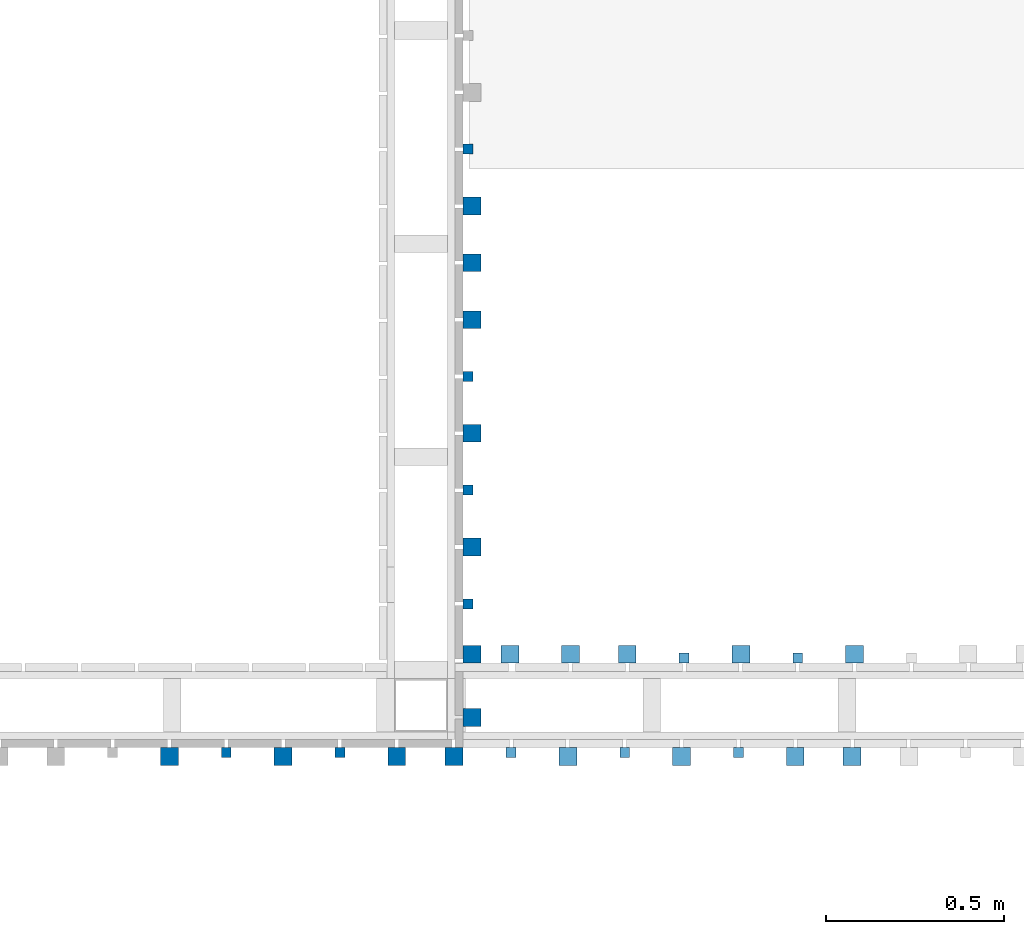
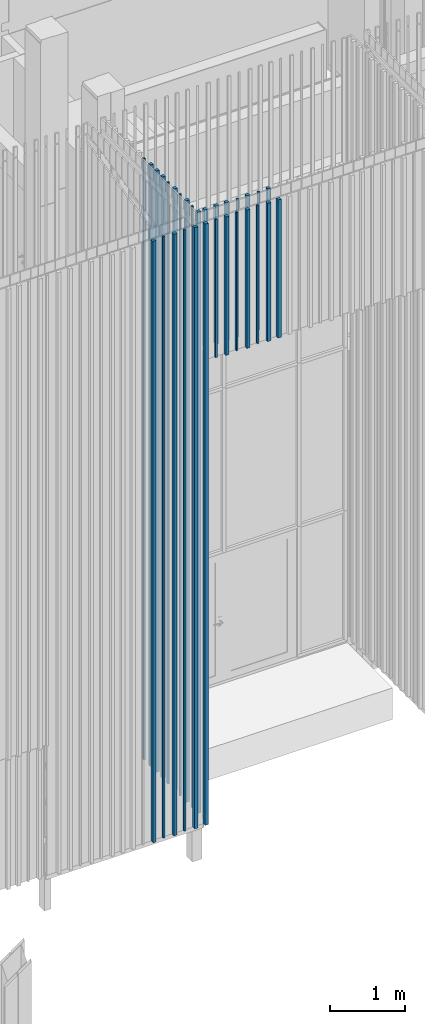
# One storey, part 11 of 390: 31 walls.
"""IFC2X3 building model written with IfcOpenShell, lengths in millimetres."""

from ifc_helpers import new_model, entity, si_unit, converted_unit, derived_unit, money_unit, direction, frame, origin_with_axes, origin_2d_with_axis, place, context, subcontext, project, spatial, rectangle, extrude, material, type_object, element, save


model = new_model("IFC2X3")

# Units and contexts
model_context = context("Model", 3, precision=1e-05, world=origin_with_axes(), true_north=direction((0.0, 1.0)))
body_context = subcontext(model_context, "Body", "Model", "MODEL_VIEW")
ifc_project = project(units=[si_unit("LENGTHUNIT", "METRE", prefix="MILLI"), si_unit("AREAUNIT", "SQUARE_METRE"), si_unit("VOLUMEUNIT", "CUBIC_METRE"), converted_unit("PLANEANGLEUNIT", "DEGREE", entity("IfcPlaneAngleMeasure", 0.0174532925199), si_unit("PLANEANGLEUNIT", "RADIAN"), dimensions=[0, 0, 0, 0, 0, 0, 0]), si_unit("SOLIDANGLEUNIT", "STERADIAN"), money_unit("EUR"), converted_unit("TIMEUNIT", "Year", entity("IfcTimeMeasure", 31556926.0), si_unit("TIMEUNIT", "SECOND"), dimensions=[0, 0, 1, 0, 0, 0, 0]), si_unit("MASSUNIT", "GRAM", prefix="KILO"), si_unit("THERMODYNAMICTEMPERATUREUNIT", "DEGREE_CELSIUS"), si_unit("LUMINOUSINTENSITYUNIT", "LUMEN"), si_unit("ENERGYUNIT", "JOULE", prefix="MEGA"), derived_unit("THERMALCONDUCTANCEUNIT", [(si_unit("POWERUNIT", "WATT"), 1), (si_unit("LENGTHUNIT", "METRE"), -1), (si_unit("THERMODYNAMICTEMPERATUREUNIT", "KELVIN"), -1)]), derived_unit("SPECIFICHEATCAPACITYUNIT", [(si_unit("ENERGYUNIT", "JOULE"), 1), (si_unit("MASSUNIT", "GRAM", prefix="KILO"), -1), (si_unit("THERMODYNAMICTEMPERATUREUNIT", "KELVIN"), -1)]), derived_unit("MASSDENSITYUNIT", [(si_unit("MASSUNIT", "GRAM", prefix="KILO"), 1), (si_unit("VOLUMEUNIT", "CUBIC_METRE"), -1)])], contexts=[model_context])

# Site, building, storey
site_placement = place(None, origin_with_axes())
site = spatial("IfcSite", under=ifc_project, at=site_placement, Name="Site", CompositionType="ELEMENT")
building_placement = place(site_placement, origin_with_axes())
building = spatial("IfcBuilding", under=site, at=building_placement, Name="Building", CompositionType="ELEMENT")
storey_placement = place(building_placement, origin_with_axes())
storey = spatial("IfcBuildingStorey", under=building, at=storey_placement, Name="1 korrus", CompositionType="ELEMENT", Elevation=0.0)

# Walls
ifc_material = material(Name="Site specified")
wall_type = type_object("IfcWallType", Name="Puitfassaadi ribistik", PredefinedType="NOTDEFINED")
for number, where, z_axis, x_axis, name in (
    (1, (128736.999994, 42466.0000037, 100.000000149), (0.0, 0.0, 1.0), (-1.0, 0.0, 0.0), "Site specified"),
    (2, (128416.999994, 42465.9999962, 100.000000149), (0.0, 0.0, 1.0), (-1.0, 0.0, 0.0), "Site specified"),
):
    element("IfcWall", number, at=place(storey_placement, frame(where, z_axis=z_axis, x_axis=x_axis)), inside=storey, type_object=wall_type, material=ifc_material, Name=name, context=body_context, shape_type="SweptSolid", body=[
        extrude(rectangle(XDim=28.0, YDim=28.0, at=origin_2d_with_axis()), origin_with_axes(), (0.0, 0.0, 1.0), 9764.99999985),
    ])
for number, where, z_axis, x_axis, name in (
    (3, (129057.999994, 42454.9999538, 100.000000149), (0.0, 0.0, 1.0), (-1.0, 0.0, 0.0), "Site specified"),
    (4, (128896.999994, 42454.9999538, 100.000000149), (0.0, 0.0, 1.0), (-1.0, 0.0, 0.0), "Site specified"),
    (5, (128256.999994, 42454.9999962, 100.000000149), (0.0, 0.0, 1.0), (-1.0, 0.0, 0.0), "Site specified"),
    (6, (128576.999994, 42454.9999463, 100.000000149), (0.0, 0.0, 1.0), (-1.0, 0.0, 0.0), "Site specified"),
):
    element("IfcWall", number, at=place(storey_placement, frame(where, z_axis=z_axis, x_axis=x_axis)), inside=storey, type_object=wall_type, material=ifc_material, Name=name, context=body_context, shape_type="SweptSolid", body=[
        extrude(rectangle(XDim=50.0, YDim=50.0, at=origin_2d_with_axis()), origin_with_axes(), (0.0, 0.0, 1.0), 9764.99999985),
    ])
for number, where, z_axis, x_axis, name in (
    (7, (129538.999994, 42465.9999962, 7620.0), (0.0, 0.0, 1.0), (-1.0, 0.0, 0.0), "Site specified"),
    (8, (129218.999994, 42466.0000037, 7620.0), (0.0, 0.0, 1.0), (-1.0, 0.0, 0.0), "Site specified"),
):
    element("IfcWall", number, at=place(storey_placement, frame(where, z_axis=z_axis, x_axis=x_axis)), inside=storey, type_object=wall_type, material=ifc_material, Name=name, context=body_context, shape_type="SweptSolid", body=[
        extrude(rectangle(XDim=28.0, YDim=28.0, at=origin_2d_with_axis()), origin_with_axes(), (0.0, 0.0, 1.0), 2245.0),
    ])
wall_1_placement = place(storey_placement, frame((129378.999994, 42454.9999463, 7620.0), z_axis=(0.0, 0.0, 1.0), x_axis=(-1.0, 0.0, 0.0)))
element("IfcWall", 9, at=wall_1_placement, inside=storey, type_object=wall_type, material=ifc_material, Name="Site specified", context=body_context, shape_type="SweptSolid", body=[
    extrude(rectangle(XDim=50.0, YDim=50.0, at=origin_2d_with_axis()), origin_with_axes(), (0.0, 0.0, 1.0), 2245.0),
])
wall_2_placement = place(storey_placement, frame((129858.999994, 42465.9999962, 7620.0), z_axis=(0.0, 0.0, 1.0), x_axis=(-1.0, 0.0, 0.0)))
element("IfcWall", 10, at=wall_2_placement, inside=storey, type_object=wall_type, material=ifc_material, Name="Site specified", context=body_context, shape_type="SweptSolid", body=[
    extrude(rectangle(XDim=28.0, YDim=28.0, at=origin_2d_with_axis()), origin_with_axes(), (0.0, 0.0, 1.0), 2245.0),
])
for number, where, z_axis, x_axis, name in (
    (11, (129698.999994, 42454.9999962, 7620.0), (0.0, 0.0, 1.0), (-1.0, 0.0, 0.0), "Site specified"),
    (12, (130018.999994, 42454.9999962, 7620.0), (0.0, 0.0, 1.0), (-1.0, 0.0, 0.0), "Site specified"),
):
    element("IfcWall", number, at=place(storey_placement, frame(where, z_axis=z_axis, x_axis=x_axis)), inside=storey, type_object=wall_type, material=ifc_material, Name=name, context=body_context, shape_type="SweptSolid", body=[
        extrude(rectangle(XDim=50.0, YDim=50.0, at=origin_2d_with_axis()), origin_with_axes(), (0.0, 0.0, 1.0), 2245.0),
    ])
wall_3_placement = place(storey_placement, frame((129109.000036, 43685.0000337, 100.000000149), z_axis=(0.0, 0.0, 1.0), x_axis=(0.0, -1.0, 0.0)))
element("IfcWall", 13, at=wall_3_placement, inside=storey, type_object=wall_type, material=ifc_material, Name="Site specified", context=body_context, shape_type="SweptSolid", body=[
    extrude(rectangle(XDim=50.0, YDim=50.0, at=origin_2d_with_axis()), origin_with_axes(), (0.0, 0.0, 1.0), 9764.99999985),
])
wall_4_placement = place(storey_placement, frame((130178.999994, 42454.9999962, 7620.0), z_axis=(0.0, 0.0, 1.0), x_axis=(-1.0, 0.0, 0.0)))
element("IfcWall", 14, at=wall_4_placement, inside=storey, type_object=wall_type, material=ifc_material, Name="Site specified", context=body_context, shape_type="SweptSolid", body=[
    extrude(rectangle(XDim=50.0, YDim=50.0, at=origin_2d_with_axis()), origin_with_axes(), (0.0, 0.0, 1.0), 2245.0),
])
wall_5_placement = place(storey_placement, frame((129109.000043, 43365.0000337, 100.000000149), z_axis=(0.0, 0.0, 1.0), x_axis=(0.0, -1.0, 0.0)))
element("IfcWall", 15, at=wall_5_placement, inside=storey, type_object=wall_type, material=ifc_material, Name="Site specified", context=body_context, shape_type="SweptSolid", body=[
    extrude(rectangle(XDim=50.0, YDim=50.0, at=origin_2d_with_axis()), origin_with_axes(), (0.0, 0.0, 1.0), 9764.99999985),
])
wall_6_placement = place(storey_placement, frame((129097.999986, 43525.0000337, 100.000000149), z_axis=(0.0, 0.0, 1.0), x_axis=(0.0, -1.0, 0.0)))
element("IfcWall", 16, at=wall_6_placement, inside=storey, type_object=wall_type, material=ifc_material, Name="Site specified", context=body_context, shape_type="SweptSolid", body=[
    extrude(rectangle(XDim=28.0, YDim=28.0, at=origin_2d_with_axis()), origin_with_axes(), (0.0, 0.0, 1.0), 9764.99999985),
])
wall_7_placement = place(storey_placement, frame((129108.999956, 43045.000071, 100.000000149), z_axis=(0.0, 0.0, 1.0), x_axis=(0.0, -1.0, 0.0)))
element("IfcWall", 17, at=wall_7_placement, inside=storey, type_object=wall_type, material=ifc_material, Name="Site specified", context=body_context, shape_type="SweptSolid", body=[
    extrude(rectangle(XDim=50.0, YDim=50.0, at=origin_2d_with_axis()), origin_with_axes(), (0.0, 0.0, 1.0), 9764.99999985),
])
wall_8_placement = place(storey_placement, frame((129097.999994, 43205.0000337, 100.000000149), z_axis=(0.0, 0.0, 1.0), x_axis=(0.0, -1.0, 0.0)))
element("IfcWall", 18, at=wall_8_placement, inside=storey, type_object=wall_type, material=ifc_material, Name="Site specified", context=body_context, shape_type="SweptSolid", body=[
    extrude(rectangle(XDim=28.0, YDim=28.0, at=origin_2d_with_axis()), origin_with_axes(), (0.0, 0.0, 1.0), 9764.99999985),
])
wall_9_placement = place(storey_placement, frame((129108.999994, 42743.0000337, 100.000000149), z_axis=(0.0, 0.0, 1.0), x_axis=(0.0, -1.0, 0.0)))
element("IfcWall", 19, at=wall_9_placement, inside=storey, type_object=wall_type, material=ifc_material, Name="Site specified", context=body_context, shape_type="SweptSolid", body=[
    extrude(rectangle(XDim=50.0, YDim=50.0, at=origin_2d_with_axis()), origin_with_axes(), (0.0, 0.0, 1.0), 9764.99999985),
])
for number, where, z_axis, x_axis, name in (
    (20, (129097.999986, 44165.0000337, 100.000000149), (0.0, 0.0, 1.0), (0.0, -1.0, 0.0), "Site specified"),
    (21, (129097.999994, 42885.0000337, 100.000000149), (0.0, 0.0, 1.0), (0.0, -1.0, 0.0), "Site specified"),
):
    element("IfcWall", number, at=place(storey_placement, frame(where, z_axis=z_axis, x_axis=x_axis)), inside=storey, type_object=wall_type, material=ifc_material, Name=name, context=body_context, shape_type="SweptSolid", body=[
        extrude(rectangle(XDim=28.0, YDim=28.0, at=origin_2d_with_axis()), origin_with_axes(), (0.0, 0.0, 1.0), 9764.99999985),
    ])
wall_10_placement = place(storey_placement, frame((129108.999994, 42565.0000337, 100.000000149), z_axis=(0.0, 0.0, 1.0), x_axis=(0.0, -1.0, 0.0)))
element("IfcWall", 22, at=wall_10_placement, inside=storey, type_object=wall_type, material=ifc_material, Name="Site specified", context=body_context, shape_type="SweptSolid", body=[
    extrude(rectangle(XDim=50.0, YDim=50.0, at=origin_2d_with_axis()), origin_with_axes(), (0.0, 0.0, 1.0), 7614.99999953),
])
for number, where, z_axis, x_axis, name in (
    (23, (129108.999986, 43845.0000337, 100.000000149), (0.0, 0.0, 1.0), (0.0, -1.0, 0.0), "Site specified"),
    (24, (129108.999986, 44005.0000337, 100.000000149), (0.0, 0.0, 1.0), (0.0, -1.0, 0.0), "Site specified"),
):
    element("IfcWall", number, at=place(storey_placement, frame(where, z_axis=z_axis, x_axis=x_axis)), inside=storey, type_object=wall_type, material=ifc_material, Name=name, context=body_context, shape_type="SweptSolid", body=[
        extrude(rectangle(XDim=50.0, YDim=50.0, at=origin_2d_with_axis()), origin_with_axes(), (0.0, 0.0, 1.0), 9764.99999985),
    ])
for number, where, z_axis, x_axis, name in (
    (25, (129215.999994, 42743.000068, 7620.00000604), (0.0, 0.0, 1.0), (1.0, 0.0, 0.0), "Site specified"),
    (26, (129385.999994, 42743.0000181, 7620.00000604), (0.0, 0.0, 1.0), (1.0, 0.0, 0.0), "Site specified"),
    (27, (129545.999994, 42743.0000181, 7620.00000604), (0.0, 0.0, 1.0), (1.0, 0.0, 0.0), "Site specified"),
    (28, (129865.999994, 42743.0000181, 7620.00000604), (0.0, 0.0, 1.0), (1.0, 0.0, 0.0), "Site specified"),
):
    element("IfcWall", number, at=place(storey_placement, frame(where, z_axis=z_axis, x_axis=x_axis)), inside=storey, type_object=wall_type, material=ifc_material, Name=name, context=body_context, shape_type="SweptSolid", body=[
        extrude(rectangle(XDim=50.0, YDim=50.0, at=origin_2d_with_axis()), origin_with_axes(), (0.0, 0.0, 1.0), 2245.0),
    ])
wall_11_placement = place(storey_placement, frame((129705.999994, 42732.0000181, 7620.00000604), z_axis=(0.0, 0.0, 1.0), x_axis=(1.0, 0.0, 0.0)))
element("IfcWall", 29, at=wall_11_placement, inside=storey, type_object=wall_type, material=ifc_material, Name="Site specified", context=body_context, shape_type="SweptSolid", body=[
    extrude(rectangle(XDim=28.0, YDim=28.0, at=origin_2d_with_axis()), origin_with_axes(), (0.0, 0.0, 1.0), 2245.0),
])
wall_12_placement = place(storey_placement, frame((130185.999993, 42743.000068, 7620.00000604), z_axis=(0.0, 0.0, 1.0), x_axis=(1.0, 0.0, 0.0)))
element("IfcWall", 30, at=wall_12_placement, inside=storey, type_object=wall_type, material=ifc_material, Name="Site specified", context=body_context, shape_type="SweptSolid", body=[
    extrude(rectangle(XDim=50.0, YDim=50.0, at=origin_2d_with_axis()), origin_with_axes(), (0.0, 0.0, 1.0), 2245.0),
])
wall_13_placement = place(storey_placement, frame((130025.999994, 42732.0000181, 7620.00000604), z_axis=(0.0, 0.0, 1.0), x_axis=(1.0, 0.0, 0.0)))
element("IfcWall", 31, at=wall_13_placement, inside=storey, type_object=wall_type, material=ifc_material, Name="Site specified", context=body_context, shape_type="SweptSolid", body=[
    extrude(rectangle(XDim=28.0, YDim=28.0, at=origin_2d_with_axis()), origin_with_axes(), (0.0, 0.0, 1.0), 2245.0),
])

save(model, "model.ifc")
